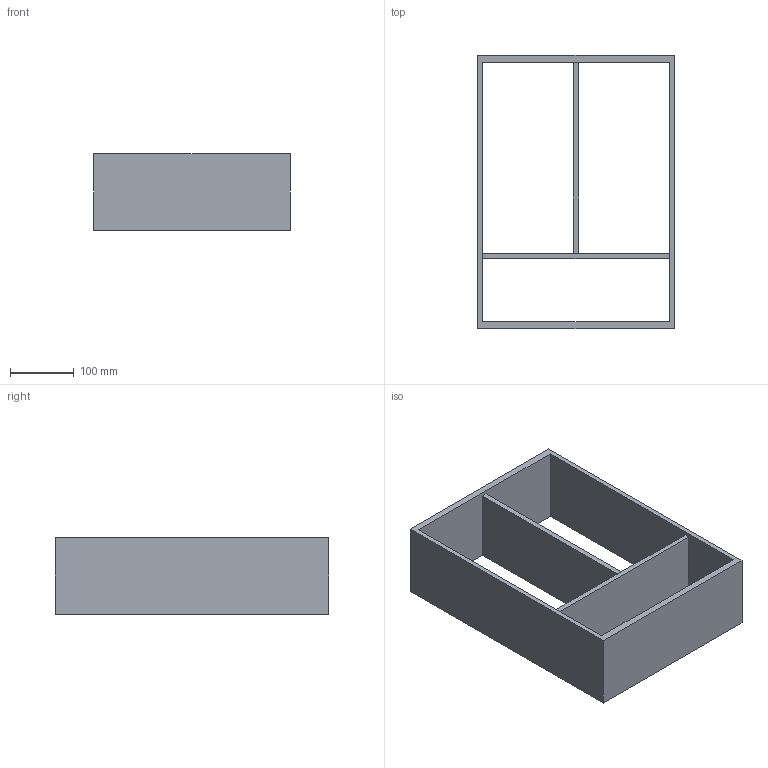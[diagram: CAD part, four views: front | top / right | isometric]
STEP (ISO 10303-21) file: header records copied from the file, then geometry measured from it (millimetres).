
FILE_DESCRIPTION (( 'STEP AP214' ), '1' );
FILE_NAME ('Vario Multi H120 NL450_B400_16 mm_Alu-Alu.step', '2010-10-08T09:47:53', ( 'grass' ), ( '' ), 'SwSTEP 2.0', 'SolidWorks 2010', '' );
FILE_SCHEMA (( 'AUTOMOTIVE_DESIGN' ));
Length unit declared in the file: millimetre
Products named in the file (1): Vario Multi H120 NL450_B400_16 mm_Alu-Alu
Bounding box: 308 x 429 x 120 mm (x, y, z)
Volume: 2134162.3 mm3; surface area: 511938.2 mm2
Topology: 1 solids, 1 shells, 18 faces, 48 edges, 32 vertices
Faces by surface type: plane 18
Entity records: 598 total; most frequent: CARTESIAN_POINT 99, ORIENTED_EDGE 96, DIRECTION 86, LINE 48, VECTOR 48, EDGE_CURVE 48, VERTEX_POINT 32, EDGE_LOOP 24
